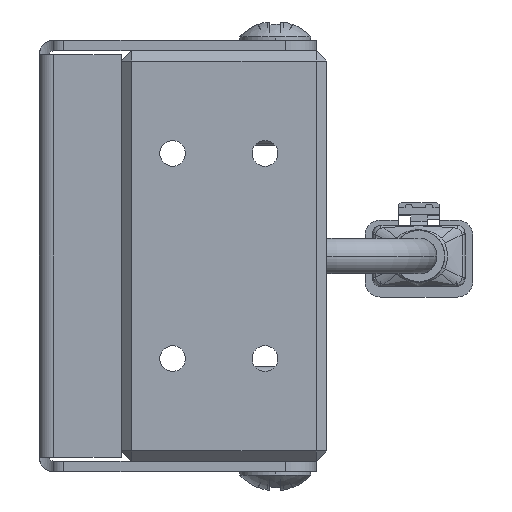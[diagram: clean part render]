
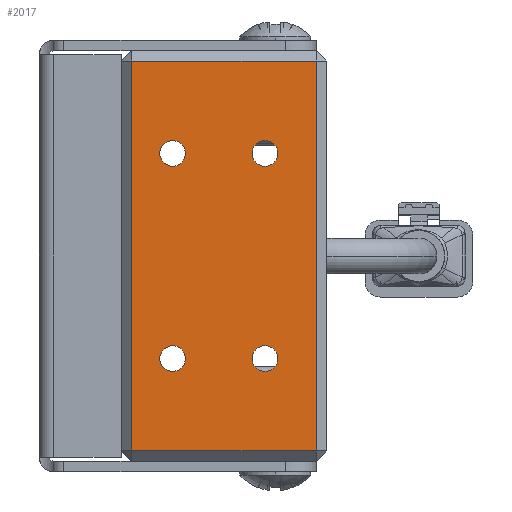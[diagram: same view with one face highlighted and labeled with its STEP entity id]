
A CAD part, left-side view. The second image highlights one B-rep face of the part: STEP entity #2017.
In plain terms, the highlighted planar face has unit normal (-1, 0, 0).
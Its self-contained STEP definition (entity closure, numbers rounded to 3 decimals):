
#378 = CIRCLE ( 'NONE', #8943, 1.25 ) ;
#462 = CARTESIAN_POINT ( 'NONE',  ( -179.5, 20., -20. ) ) ;
#570 = DIRECTION ( 'NONE',  ( 1., 0., 0. ) ) ;
#571 = VERTEX_POINT ( 'NONE', #17681 ) ;
#1057 = CARTESIAN_POINT ( 'NONE',  ( -179.5, 15., 8.75 ) ) ;
#1116 = VERTEX_POINT ( 'NONE', #2016 ) ;
#1318 = CARTESIAN_POINT ( 'NONE',  ( -179.5, 1., -20. ) ) ;
#2016 = CARTESIAN_POINT ( 'NONE',  ( -179.5, 1., 19. ) ) ;
#2017 = ADVANCED_FACE ( 'NONE', ( #4323, #18391, #17653, #26716, #16875 ), #3130, .F. ) ;
#2491 = VERTEX_POINT ( 'NONE', #1057 ) ;
#2945 = CIRCLE ( 'NONE', #19582, 1.25 ) ;
#3028 = ORIENTED_EDGE ( 'NONE', *, *, #5079, .T. ) ;
#3130 = PLANE ( 'NONE',  #3352 ) ;
#3352 = AXIS2_PLACEMENT_3D ( 'NONE', #462, #570, #19903 ) ;
#3449 = ORIENTED_EDGE ( 'NONE', *, *, #28156, .F. ) ;
#3556 = EDGE_CURVE ( 'NONE', #15584, #24739, #19797, .T. ) ;
#3589 = CARTESIAN_POINT ( 'NONE',  ( -179.5, 6., -10. ) ) ;
#3738 = VECTOR ( 'NONE', #24332, 1000. ) ;
#4083 = LINE ( 'NONE', #26318, #5982 ) ;
#4323 = FACE_BOUND ( 'NONE', #9161, .T. ) ;
#4914 = ORIENTED_EDGE ( 'NONE', *, *, #20082, .F. ) ;
#5022 = AXIS2_PLACEMENT_3D ( 'NONE', #14833, #12266, #17073 ) ;
#5079 = EDGE_CURVE ( 'NONE', #6825, #23689, #6040, .T. ) ;
#5387 = CARTESIAN_POINT ( 'NONE',  ( -179.5, 15., 11.25 ) ) ;
#5494 = EDGE_LOOP ( 'NONE', ( #29576, #26880 ) ) ;
#5757 = CIRCLE ( 'NONE', #18849, 1.25 ) ;
#5833 = DIRECTION ( 'NONE',  ( -1., 0., 0. ) ) ;
#5861 = EDGE_CURVE ( 'NONE', #18813, #6825, #4083, .T. ) ;
#5982 = VECTOR ( 'NONE', #26215, 1000. ) ;
#6020 = DIRECTION ( 'NONE',  ( 0., 0., 1. ) ) ;
#6040 = LINE ( 'NONE', #7343, #3738 ) ;
#6382 = DIRECTION ( 'NONE',  ( 0., 0., 1. ) ) ;
#6825 = VERTEX_POINT ( 'NONE', #30827 ) ;
#7343 = CARTESIAN_POINT ( 'NONE',  ( -179.5, 20., -19. ) ) ;
#7414 = DIRECTION ( 'NONE',  ( -1., 0., 0. ) ) ;
#7778 = DIRECTION ( 'NONE',  ( -1., 0., 0. ) ) ;
#8120 = DIRECTION ( 'NONE',  ( -1., 0., 0. ) ) ;
#8459 = ORIENTED_EDGE ( 'NONE', *, *, #22280, .T. ) ;
#8565 = ORIENTED_EDGE ( 'NONE', *, *, #23619, .T. ) ;
#8943 = AXIS2_PLACEMENT_3D ( 'NONE', #20446, #30308, #20347 ) ;
#9161 = EDGE_LOOP ( 'NONE', ( #31528, #15793 ) ) ;
#9641 = EDGE_CURVE ( 'NONE', #27570, #16162, #2945, .T. ) ;
#10693 = AXIS2_PLACEMENT_3D ( 'NONE', #29158, #7414, #14642 ) ;
#11242 = DIRECTION ( 'NONE',  ( -1., 0., 0. ) ) ;
#11616 = CARTESIAN_POINT ( 'NONE',  ( -179.5, 6., 11.25 ) ) ;
#12266 = DIRECTION ( 'NONE',  ( -1., 0., 0. ) ) ;
#12329 = VERTEX_POINT ( 'NONE', #21635 ) ;
#12382 = CARTESIAN_POINT ( 'NONE',  ( -179.5, 1., -19. ) ) ;
#12409 = EDGE_CURVE ( 'NONE', #2491, #28096, #30549, .T. ) ;
#12860 = CARTESIAN_POINT ( 'NONE',  ( -179.5, 6., 10. ) ) ;
#13296 = CARTESIAN_POINT ( 'NONE',  ( -179.5, 6., 8.75 ) ) ;
#13913 = AXIS2_PLACEMENT_3D ( 'NONE', #30663, #11242, #6382 ) ;
#14134 = ORIENTED_EDGE ( 'NONE', *, *, #5861, .T. ) ;
#14642 = DIRECTION ( 'NONE',  ( 0., 0., 1. ) ) ;
#14833 = CARTESIAN_POINT ( 'NONE',  ( -179.5, 6., 10. ) ) ;
#15346 = DIRECTION ( 'NONE',  ( 0., 0., 1. ) ) ;
#15584 = VERTEX_POINT ( 'NONE', #11616 ) ;
#15793 = ORIENTED_EDGE ( 'NONE', *, *, #12409, .F. ) ;
#16162 = VERTEX_POINT ( 'NONE', #28556 ) ;
#16875 = FACE_OUTER_BOUND ( 'NONE', #18734, .T. ) ;
#17073 = DIRECTION ( 'NONE',  ( 0., 0., 1. ) ) ;
#17653 = FACE_BOUND ( 'NONE', #24438, .T. ) ;
#17681 = CARTESIAN_POINT ( 'NONE',  ( -179.5, 15., -8.75 ) ) ;
#18126 = EDGE_LOOP ( 'NONE', ( #3449, #25067 ) ) ;
#18391 = FACE_BOUND ( 'NONE', #5494, .T. ) ;
#18462 = CIRCLE ( 'NONE', #24202, 1.25 ) ;
#18734 = EDGE_LOOP ( 'NONE', ( #8459, #8565, #14134, #3028 ) ) ;
#18813 = VERTEX_POINT ( 'NONE', #28609 ) ;
#18849 = AXIS2_PLACEMENT_3D ( 'NONE', #23364, #23769, #28326 ) ;
#19582 = AXIS2_PLACEMENT_3D ( 'NONE', #3589, #5833, #20578 ) ;
#19797 = CIRCLE ( 'NONE', #25319, 1.25 ) ;
#19903 = DIRECTION ( 'NONE',  ( 0., 0., -1. ) ) ;
#20082 = EDGE_CURVE ( 'NONE', #571, #12329, #378, .T. ) ;
#20347 = DIRECTION ( 'NONE',  ( 0., 0., 1. ) ) ;
#20367 = VECTOR ( 'NONE', #6020, 1000. ) ;
#20446 = CARTESIAN_POINT ( 'NONE',  ( -179.5, 15., -10. ) ) ;
#20578 = DIRECTION ( 'NONE',  ( 0., 0., 1. ) ) ;
#21299 = ORIENTED_EDGE ( 'NONE', *, *, #29049, .F. ) ;
#21635 = CARTESIAN_POINT ( 'NONE',  ( -179.5, 15., -11.25 ) ) ;
#21821 = LINE ( 'NONE', #31076, #22593 ) ;
#22280 = EDGE_CURVE ( 'NONE', #23689, #1116, #23765, .T. ) ;
#22593 = VECTOR ( 'NONE', #23955, 1000. ) ;
#23364 = CARTESIAN_POINT ( 'NONE',  ( -179.5, 15., 10. ) ) ;
#23619 = EDGE_CURVE ( 'NONE', #1116, #18813, #21821, .T. ) ;
#23689 = VERTEX_POINT ( 'NONE', #12382 ) ;
#23765 = LINE ( 'NONE', #1318, #20367 ) ;
#23769 = DIRECTION ( 'NONE',  ( -1., 0., 0. ) ) ;
#23955 = DIRECTION ( 'NONE',  ( 0., 1., 0. ) ) ;
#24202 = AXIS2_PLACEMENT_3D ( 'NONE', #29862, #8120, #15346 ) ;
#24332 = DIRECTION ( 'NONE',  ( 0., -1., 0. ) ) ;
#24438 = EDGE_LOOP ( 'NONE', ( #4914, #21299 ) ) ;
#24739 = VERTEX_POINT ( 'NONE', #13296 ) ;
#25067 = ORIENTED_EDGE ( 'NONE', *, *, #9641, .F. ) ;
#25157 = DIRECTION ( 'NONE',  ( 0., 0., 1. ) ) ;
#25297 = EDGE_CURVE ( 'NONE', #28096, #2491, #5757, .T. ) ;
#25319 = AXIS2_PLACEMENT_3D ( 'NONE', #12860, #7778, #25157 ) ;
#26215 = DIRECTION ( 'NONE',  ( 0., 0., -1. ) ) ;
#26318 = CARTESIAN_POINT ( 'NONE',  ( -179.5, 19., -20. ) ) ;
#26716 = FACE_BOUND ( 'NONE', #18126, .T. ) ;
#26880 = ORIENTED_EDGE ( 'NONE', *, *, #29875, .F. ) ;
#27570 = VERTEX_POINT ( 'NONE', #29587 ) ;
#28096 = VERTEX_POINT ( 'NONE', #5387 ) ;
#28156 = EDGE_CURVE ( 'NONE', #16162, #27570, #18462, .T. ) ;
#28192 = CIRCLE ( 'NONE', #5022, 1.25 ) ;
#28251 = CIRCLE ( 'NONE', #13913, 1.25 ) ;
#28326 = DIRECTION ( 'NONE',  ( 0., 0., 1. ) ) ;
#28556 = CARTESIAN_POINT ( 'NONE',  ( -179.5, 6., -8.75 ) ) ;
#28609 = CARTESIAN_POINT ( 'NONE',  ( -179.5, 19., 19. ) ) ;
#29049 = EDGE_CURVE ( 'NONE', #12329, #571, #28251, .T. ) ;
#29158 = CARTESIAN_POINT ( 'NONE',  ( -179.5, 15., 10. ) ) ;
#29576 = ORIENTED_EDGE ( 'NONE', *, *, #3556, .F. ) ;
#29587 = CARTESIAN_POINT ( 'NONE',  ( -179.5, 6., -11.25 ) ) ;
#29862 = CARTESIAN_POINT ( 'NONE',  ( -179.5, 6., -10. ) ) ;
#29875 = EDGE_CURVE ( 'NONE', #24739, #15584, #28192, .T. ) ;
#30308 = DIRECTION ( 'NONE',  ( -1., 0., 0. ) ) ;
#30549 = CIRCLE ( 'NONE', #10693, 1.25 ) ;
#30663 = CARTESIAN_POINT ( 'NONE',  ( -179.5, 15., -10. ) ) ;
#30827 = CARTESIAN_POINT ( 'NONE',  ( -179.5, 19., -19. ) ) ;
#31076 = CARTESIAN_POINT ( 'NONE',  ( -179.5, 20., 19. ) ) ;
#31528 = ORIENTED_EDGE ( 'NONE', *, *, #25297, .F. ) ;
